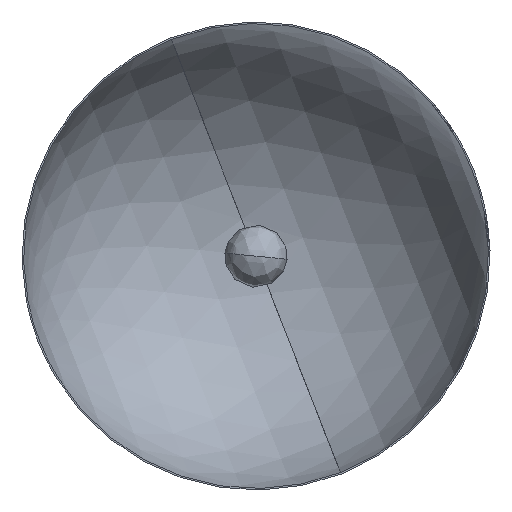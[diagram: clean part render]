
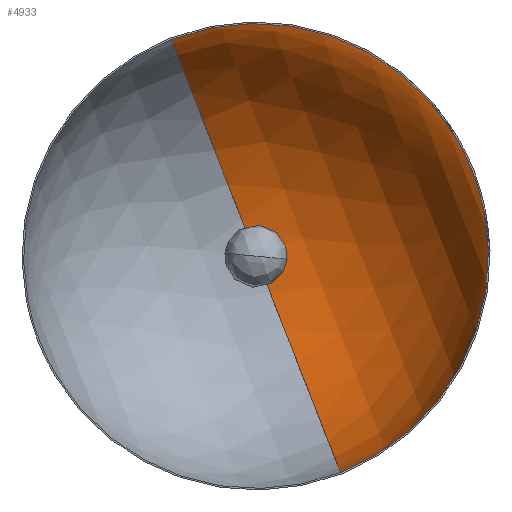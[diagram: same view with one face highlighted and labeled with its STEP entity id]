
A CAD part, top view. The second image highlights one B-rep face of the part: STEP entity #4933.
In plain terms, the highlighted spherical face has radius 223.5 mm.
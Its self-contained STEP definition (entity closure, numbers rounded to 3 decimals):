
#140 = DIRECTION ( 'NONE',  ( 0.363, -0.932, 0. ) ) ;
#246 = CIRCLE ( 'NONE', #1631, 223.5 ) ;
#319 = DIRECTION ( 'NONE',  ( 0.363, -0.932, 0. ) ) ;
#623 = EDGE_LOOP ( 'NONE', ( #2034, #1162, #7536 ) ) ;
#894 = DIRECTION ( 'NONE',  ( -0.932, -0.363, 0. ) ) ;
#1034 = CARTESIAN_POINT ( 'NONE',  ( 7.5, 0., 1782.313 ) ) ;
#1162 = ORIENTED_EDGE ( 'NONE', *, *, #7515, .T. ) ;
#1631 = AXIS2_PLACEMENT_3D ( 'NONE', #5318, #894, #6045 ) ;
#1723 = FACE_OUTER_BOUND ( 'NONE', #623, .T. ) ;
#1878 = CARTESIAN_POINT ( 'NONE',  ( 7.5, 0., 1782.313 ) ) ;
#2034 = ORIENTED_EDGE ( 'NONE', *, *, #7841, .F. ) ;
#2342 = CARTESIAN_POINT ( 'NONE',  ( 88.662, -208.011, 1772.5 ) ) ;
#2642 = DIRECTION ( 'NONE',  ( -0.363, 0.932, 0. ) ) ;
#2720 = CIRCLE ( 'NONE', #7498, 223.284 ) ;
#2956 = AXIS2_PLACEMENT_3D ( 'NONE', #1878, #7052, #2642 ) ;
#3904 = CARTESIAN_POINT ( 'NONE',  ( -73.662, 208.011, 1772.5 ) ) ;
#3914 = AXIS2_PLACEMENT_3D ( 'NONE', #1034, #4749, #319 ) ;
#4578 = DIRECTION ( 'NONE',  ( 0., 0., 1. ) ) ;
#4749 = DIRECTION ( 'NONE',  ( 0.932, 0.363, 0. ) ) ;
#4933 = ADVANCED_FACE ( 'NONE', ( #1723 ), #5650, .F. ) ;
#5267 = VERTEX_POINT ( 'NONE', #8398 ) ;
#5318 = CARTESIAN_POINT ( 'NONE',  ( 7.5, 0., 1782.313 ) ) ;
#5650 = SPHERICAL_SURFACE ( 'NONE', #3914, 223.5 ) ;
#6045 = DIRECTION ( 'NONE',  ( 0.363, -0.932, 0. ) ) ;
#7052 = DIRECTION ( 'NONE',  ( 0.932, 0.363, 0. ) ) ;
#7498 = AXIS2_PLACEMENT_3D ( 'NONE', #9011, #4578, #140 ) ;
#7515 = EDGE_CURVE ( 'NONE', #5267, #9043, #246, .T. ) ;
#7536 = ORIENTED_EDGE ( 'NONE', *, *, #9029, .T. ) ;
#7841 = EDGE_CURVE ( 'NONE', #5267, #9531, #8956, .T. ) ;
#8398 = CARTESIAN_POINT ( 'NONE',  ( 7.5, 0., 1558.813 ) ) ;
#8956 = CIRCLE ( 'NONE', #2956, 223.5 ) ;
#9011 = CARTESIAN_POINT ( 'NONE',  ( 7.5, 0., 1772.5 ) ) ;
#9029 = EDGE_CURVE ( 'NONE', #9043, #9531, #2720, .T. ) ;
#9043 = VERTEX_POINT ( 'NONE', #2342 ) ;
#9531 = VERTEX_POINT ( 'NONE', #3904 ) ;
